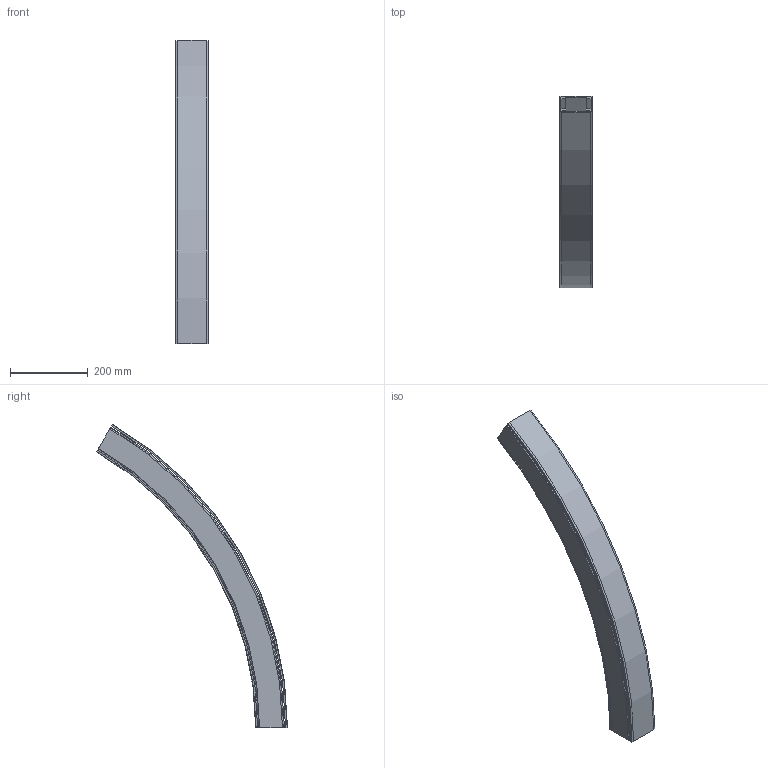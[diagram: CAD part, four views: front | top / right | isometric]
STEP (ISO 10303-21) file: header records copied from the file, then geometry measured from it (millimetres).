
FILE_DESCRIPTION((''),'2;1');
FILE_NAME('C:\Vault Klient\Projekt\Koncept konstruktion\Serie 530 Balk\530-5680_UP.stp','2010-11-23T14:25:32',('Mathias'),(''),'Autodesk Inventor 2011','Autodesk Inventor 2011','');
FILE_SCHEMA(('AUTOMOTIVE_DESIGN { 1 0 10303 214 1 1 1 1 }'));
Length unit declared in the file: millimetre
Products named in the file (1): 530-5680_UP
Bounding box: 86 x 492.25 x 781.59 mm (x, y, z)
Volume: 1338265.2 mm3; surface area: 652821.8 mm2
Topology: 2 solids, 2 shells, 87 faces, 234 edges, 156 vertices
Faces by surface type: plane 40, cylinder 25, bspline 14, cone 4, torus 4
Entity records: 3194 total; most frequent: CARTESIAN_POINT 956, ORIENTED_EDGE 468, DIRECTION 428, EDGE_CURVE 234, VERTEX_POINT 156, AXIS2_PLACEMENT_3D 148, VECTOR 132, LINE 132
